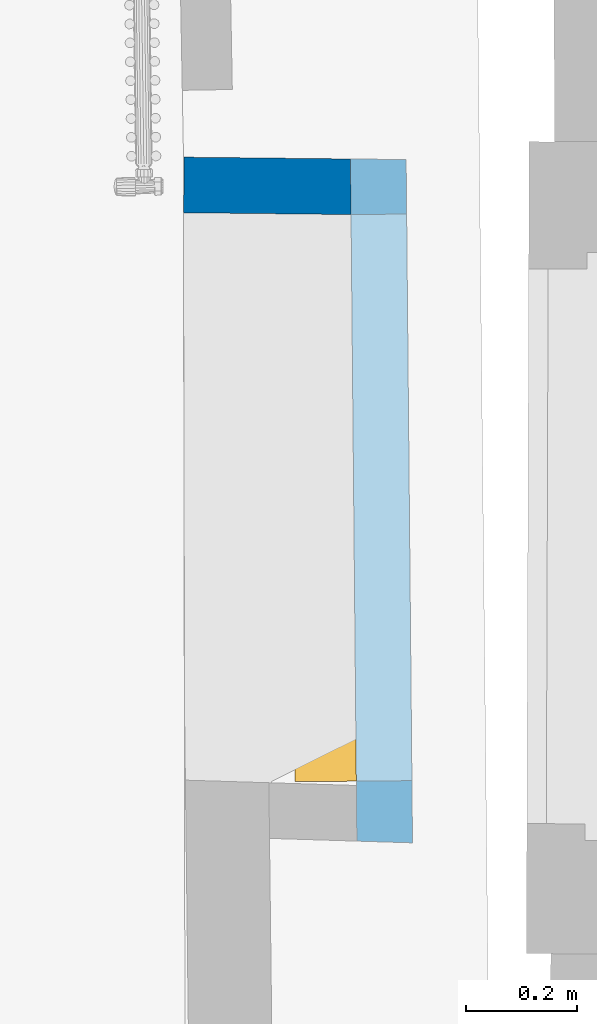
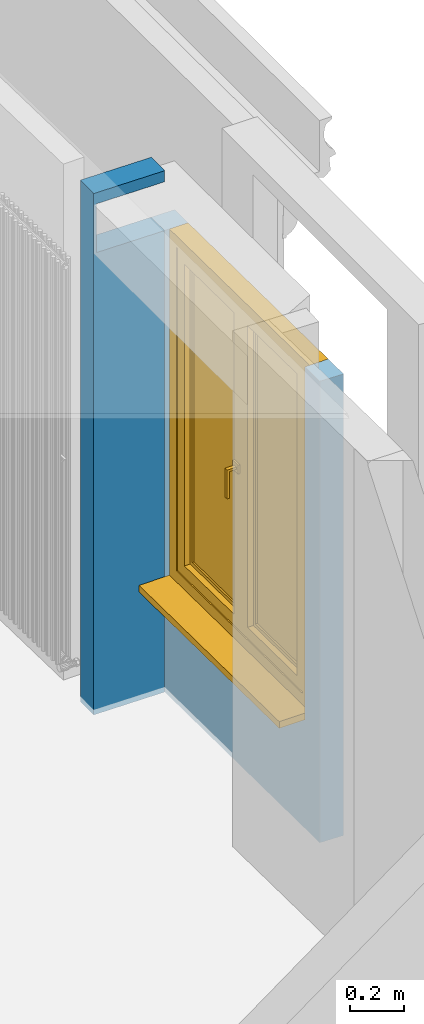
# One storey, part 65 of 72: 1 wall, 1 window, 1 opening, plus 1 element that does not belong to this part.
"""IFC2X3 building model written with IfcOpenShell, lengths in centimetres."""

from ifc_helpers import new_model, entity, si_unit, converted_unit, direction, frame, origin, origin_with_axes, place, context, subcontext, project, spatial, polyline, outline, extrude, faceted_brep, shape, material, material_list, layer, layer_set, layer_usage, type_object, element, fill, save


model = new_model("IFC2X3")

# Units and contexts
model_context = context("Model", 3, precision=0.0001, world=origin(), true_north=direction((0.225632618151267, 0.974212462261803, 0.0)))
body_context = subcontext(model_context, "Body", "Model", "MODEL_VIEW")
footprint_context = subcontext(model_context, "FootPrint", "Model", "MODEL_VIEW")
profile_context = subcontext(model_context, "Profile", "Model", "MODEL_VIEW")
ifc_project = project(units=[si_unit("LENGTHUNIT", "METRE", prefix="CENTI"), si_unit("AREAUNIT", "SQUARE_METRE", prefix="CENTI"), si_unit("VOLUMEUNIT", "CUBIC_METRE", prefix="CENTI"), converted_unit("PLANEANGLEUNIT", "DEGREE", entity("IfcRatioMeasure", 0.0174532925), si_unit("PLANEANGLEUNIT", "RADIAN"), dimensions=[0, 0, 0, 0, 0, 0, 0])], contexts=[model_context])

# Site, building, storey
site_placement = place(None, origin_with_axes())
site = spatial("IfcSite", under=ifc_project, at=site_placement, Name="Default Site", CompositionType="ELEMENT")
building_placement = place(site_placement, origin_with_axes())
building = spatial("IfcBuilding", under=site, at=building_placement, Name="Default Building", CompositionType="ELEMENT")
storey_placement = place(building_placement, frame((0.0, 0.0, 853.910374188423), z_axis=(0.0, 0.0, 1.0), x_axis=(1.0, 0.0, 0.0)))
storey = spatial("IfcBuildingStorey", under=building, at=storey_placement, Name="Niveau 2", CompositionType="ELEMENT", Elevation=853.910374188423)

# Wall
ifc_material_1 = material(Name="<aucun>")
ifc_layer = layer(ifc_material_1, 10.0)
ifc_layer_set = layer_set([ifc_layer], Name="default")
ifc_layer_usage_1 = layer_usage(ifc_layer_set, "AXIS2", "POSITIVE", -5.0)
wall_type_1 = type_object("IfcWallType", Name="default 100", PredefinedType="NOTDEFINED", material=ifc_layer_set)
wall_1_placement = place(storey_placement, frame((1104.12270452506, 517.866633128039, 1.06581410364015e-12), z_axis=(0.0, 0.0, 1.0), x_axis=(-0.999940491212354, 0.0109093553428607, 0.0)))
element("IfcWall", 1, at=wall_1_placement, inside=storey, type_object=wall_type_1, material=ifc_layer_usage_1, Name="Enveloppe 180119", context=body_context, shape_type="Brep", body=[
    faceted_brep([(30.1208991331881, 5.00001558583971, 199.999976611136), (30.1208991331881, 5.00001558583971, -2.33888636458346e-05), (-2.61978799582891e-05, 5.0000155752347, -2.33888636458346e-05), (-2.61978799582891e-05, 5.0000155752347, 199.999976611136), (28.9465704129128, 4.99998365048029, 207.999968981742), (28.9465704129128, 4.99998365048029, 199.999976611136), (-2.61978799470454e-05, 4.99998364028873, 199.999976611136), (-2.61978799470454e-05, 4.99998364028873, 207.999968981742), (30.1208970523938, 5.00020630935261, 207.999968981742), (28.9465704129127, 5.00020630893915, 207.999968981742), (28.9465704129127, 5.00020630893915, 229.999995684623), (30.1208970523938, 5.00020630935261, 229.999995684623), (28.9465704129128, 4.99998365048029, 234.007525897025), (30.1208991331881, 4.99998365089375, 234.007525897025), (30.1208970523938, 4.99998365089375, 229.999995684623), (28.9465704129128, 4.99998365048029, 229.999995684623), (30.1208970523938, 4.99998365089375, 207.999968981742), (30.1208991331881, 4.99998365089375, 199.999976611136), (-2.61978799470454e-05, 4.99998364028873, 229.999995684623), (-2.61978799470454e-05, 4.99998364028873, 234.007525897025), (30.1208991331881, 5.00001558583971, 234.007525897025), (28.9465704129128, 5.00001558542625, 234.007525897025), (-2.61978799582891e-05, 5.0000155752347, 234.007525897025), (-2.61978799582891e-05, 5.0000155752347, 235.000014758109), (30.1208991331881, 5.00001558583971, 235.000014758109), (26.7064399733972, -5.00000632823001, -2.33888636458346e-05), (30.1208924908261, -5.00000632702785, -2.33888636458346e-05), (30.1208924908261, -5.00000632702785, 199.999976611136), (28.9465632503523, -5.00000632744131, 199.999976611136), (26.7064399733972, -5.00000632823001, 199.999976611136), (0.202348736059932, -4.99999482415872, -2.33888636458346e-05), (3.8115533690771, -4.99999482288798, -2.33888636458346e-05), (26.7064399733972, -4.99999481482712, -2.33888636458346e-05), (26.7064399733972, -4.99999481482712, 199.999976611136), (0.202348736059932, -4.99999482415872, 199.999976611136), (28.9465632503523, -4.99999481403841, 199.999976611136), (28.9465632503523, -4.99999481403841, 207.999968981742), (0.202348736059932, -4.99999482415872, 207.999968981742), (28.9465632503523, -4.99998208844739, 199.999976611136), (30.1208924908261, -4.99998208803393, 199.999976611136), (30.1208924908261, -4.99998208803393, 234.007525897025), (28.9465632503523, -4.99998208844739, 234.007525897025), (28.9465632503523, -4.99998208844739, 229.999995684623), (28.9465632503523, -4.99998208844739, 207.999968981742), (-3.28402421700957e-05, -5.00000922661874, 229.999995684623), (0.202348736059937, -5.00000922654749, 229.999995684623), (28.9465632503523, -5.00000921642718, 229.999995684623), (28.9465632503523, -5.00000921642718, 234.007525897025), (-3.28402421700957e-05, -5.00000922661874, 234.007525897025), (30.1208924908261, -5.00000921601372, 234.007525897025), (30.1208924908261, -5.00000921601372, 235.000014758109), (-3.28402421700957e-05, -5.00000922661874, 235.000014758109), (30.1208924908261, -4.99999783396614, -2.33888636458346e-05), (26.6574070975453, -2.78731295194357, -2.33888636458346e-05), (26.6127065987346, -0.770659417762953, -2.33888636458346e-05), (0.0809225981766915, 0.998364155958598, -2.33888636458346e-05), (-2.61978799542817e-05, 5.00000419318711, -2.33888636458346e-05), (0.0809340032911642, 0.998364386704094, -2.33888636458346e-05), (0.0809340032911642, 0.998364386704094, 199.999976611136), (-2.61978799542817e-05, 5.00000419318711, 199.999976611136), (30.1208924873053, 5.00001558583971, -2.33888636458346e-05), (30.1208924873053, 5.00001558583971, 199.999976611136), (30.1208924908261, -4.99999783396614, 199.999976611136), (0.202279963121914, -4.99999621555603, -2.33888636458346e-05), (0.202279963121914, -4.99999621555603, 199.999976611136), (0.0809225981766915, 0.998364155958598, 199.999976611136), (-2.61978799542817e-05, 5.00000419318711, 207.999968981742), (0.202279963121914, -4.99999621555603, 207.999968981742), (0.0809225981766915, 0.998364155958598, 207.999968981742), (0.0809340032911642, 0.998364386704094, 207.999968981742), (30.1208924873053, 5.00001558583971, 207.999968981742), (30.1208924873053, 5.00001558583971, 229.999995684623), (30.1208924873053, 5.00001558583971, 234.007525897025), (30.1208924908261, -4.99999783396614, 234.007525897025), (28.9465704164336, -4.99998208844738, 207.999968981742), (28.9465704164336, -4.99998208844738, 229.999995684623), (-2.61978799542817e-05, 5.00000419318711, 229.999995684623), (-2.61943591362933e-05, -5.00000922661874, 229.999995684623), (-2.61943591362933e-05, -5.00000922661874, 234.007525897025), (-2.61978799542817e-05, 5.00000419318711, 234.007525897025), (-2.61978799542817e-05, 5.00000419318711, 235.000014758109), (30.1208924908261, -4.99999783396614, 235.000014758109), (-2.61943591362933e-05, -5.00000922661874, 235.000014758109), (30.1208924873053, 5.00001558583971, 235.000014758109)], [[[0, 1, 2, 3]], [[4, 5, 6, 7]], [[8, 9, 10, 11]], [[12, 13, 14, 15]], [[5, 4, 16, 17]], [[15, 18, 19, 12]], [[20, 21, 22, 23, 24]], [[25, 26, 27, 28, 29]], [[30, 31, 32, 33, 34]], [[34, 33, 35, 36, 37]], [[38, 39, 40, 41, 42, 43]], [[44, 45, 46, 47, 48]], [[48, 47, 49, 50, 51]], [[1, 52, 25, 53, 54, 55, 56]], [[56, 57, 58, 59]], [[52, 60, 61, 62]], [[30, 55, 54, 25]], [[55, 63, 64, 65]], [[43, 4, 66, 37]], [[65, 64, 67, 68]], [[59, 58, 69, 66]], [[62, 61, 70, 71, 72, 73]], [[4, 74, 75, 15]], [[44, 76, 15, 42]], [[76, 77, 78, 79]], [[24, 80, 51, 81]], [[79, 78, 82, 80]], [[73, 72, 83, 81]]]),
])

# Wall, opening, window
ifc_layer_usage_2 = layer_usage(ifc_layer_set, "AXIS2", "POSITIVE", -5.0)
wall_type_2 = type_object("IfcWallType", Name="default 100", PredefinedType="NOTDEFINED", material=ifc_layer_set)
wall_2_placement = place(storey_placement, frame((1110.11785791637, 400.257758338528, 1.06581410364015e-12), z_axis=(0.0, 0.0, 1.0), x_axis=(-0.00931928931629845, 0.999956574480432, 0.0)))
wall_2 = element("IfcWallStandardCase", 2, at=wall_2_placement, inside=storey, type_object=wall_type_2, material=ifc_layer_usage_2, Name="Enveloppe 180013", context=body_context, shape_type="SweptSolid", body=[
    extrude(outline(polyline([(122.662707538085, 5.00000000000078), (-0.0230565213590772, 5.00000000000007), (-0.428298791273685, -4.99999999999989), (122.460389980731, -4.99999999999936), (122.662707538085, 5.00000000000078)])), frame((0.0, 0.0, -1.77635683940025e-13), z_axis=(0.0, 0.0, 1.0), x_axis=(1.0, 0.0, 0.0)), (0.0, 0.0, 1.0), 208.000000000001),
])
opening_placement = place(wall_2_placement, frame((10.7602269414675, 0.0, 51.9999999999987), z_axis=(0.0, 0.0, 1.0), x_axis=(1.0, 5.759281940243e-15, 0.0)))
cartesian_point_1 = entity("IfcCartesianPoint", [8.88178419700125e-14, 0.0, 156.0])
cartesian_point_2 = entity("IfcCartesianPoint", [101.900434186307, 5.00000000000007])
opening = element("IfcOpeningElement", 3, at=opening_placement, cuts=wall_2, Name="4294966525_11", ObjectType="Opening", shapes=[
    shape(body_context, "Body", "SweptSolid", [extrude(outline(polyline([(8.88178419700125e-14, 156.0), (0.0, -2.99999999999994), (101.900434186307, -2.99999999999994), (101.900434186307, 156.0), (8.88178419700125e-14, 156.0)])), frame((0.0, 15.0, 0.0), z_axis=(0.0, -1.0, 0.0), x_axis=(1.0, 0.0, 0.0)), (0.0, 0.0, 1.0), 30.0)]),
    shape(profile_context, "Profile", "GeometricCurveSet", [entity("IfcGeometricCurveSet", [entity("IfcPolyline", [cartesian_point_1, entity("IfcCartesianPoint", [0.0, 0.0, 0.0]), entity("IfcCartesianPoint", [101.900434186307, 0.0, 0.0]), entity("IfcCartesianPoint", [101.900434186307, 0.0, 156.0]), cartesian_point_1])])]),
    shape(footprint_context, "FootPrint", "GeometricCurveSet", [entity("IfcGeometricCurveSet", [entity("IfcPolyline", [cartesian_point_2, entity("IfcCartesianPoint", [0.0, 5.00000000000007]), entity("IfcCartesianPoint", [0.0, -5.00000000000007]), entity("IfcCartesianPoint", [101.900434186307, -5.00000000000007]), cartesian_point_2])])]),
])
ifc_material_2 = material(Name="Transparent")
ifc_material_3 = material(Name="Jaune 255-255-0")
ifc_material_4 = material(Name="Brèche oniciata")
ifc_material_5 = material(Name="Aluminium satiné")
ifc_material_list = material_list([ifc_material_2, ifc_material_3, ifc_material_4, ifc_material_5])
window_style = type_object("IfcWindowStyle", Name="FN[R] 2VB[1V] MM", ConstructionType="NOTDEFINED", OperationType="DOUBLE_PANEL_VERTICAL", ParameterTakesPrecedence=True, Sizeable=False, material=ifc_material_list)
window_placement = place(opening_placement, frame((1.70530256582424e-13, -5.00000000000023, 0.0), z_axis=(0.0, 0.0, 1.0), x_axis=(1.0, 0.0, 0.0)))
window = element("IfcWindow", 4, at=window_placement, inside=storey, type_object=window_style, material=ifc_material_list, Name="Fenêtre 180595", OverallHeight=156.0, OverallWidth=101.900434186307, context=body_context, shape_type="Brep", body=[
    faceted_brep([(101.900429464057, 9.99997389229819, 2.23875050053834e-05), (101.900422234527, 21.0000358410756, 2.23875050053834e-05), (-3.02626927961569e-06, 21.0000064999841, 2.23875050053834e-05), (5.09201711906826e-06, 10.0000399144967, 2.23875050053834e-05), (-1.3778280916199e-05, 4.45255446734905e-05, 2.23875050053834e-05), (101.900410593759, -2.14966538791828e-05, 2.23875050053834e-05), (101.900410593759, -2.14966538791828e-05, -3.00004627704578), (-1.3778280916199e-05, 4.45255446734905e-05, -3.00004627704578), (5.09201711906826e-06, 10.0000399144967, -3.00004627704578), (-3.02626927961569e-06, 21.0000064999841, -3.00004627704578), (101.900422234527, 21.0000358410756, -3.00004627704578), (101.900429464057, 9.99997389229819, -3.00004627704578), (-1.37782808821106e-05, -2.15492250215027e-05, 2.23875050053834e-05), (-1.37782808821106e-05, -2.15492250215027e-05, -3.00004627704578), (-1.37834399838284e-05, 10.0000399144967, 2.23875050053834e-05), (-1.37834399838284e-05, 10.0000399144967, -3.00004627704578), (5.08634215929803e-06, 21.0000064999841, 2.23875050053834e-05), (5.08634215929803e-06, 21.0000064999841, -3.00004627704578), (101.900422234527, 21.0000065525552, 2.23875050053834e-05), (101.900422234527, 21.0000065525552, -3.00004627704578), (101.900422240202, 9.99997389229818, 2.23875050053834e-05), (101.900422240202, 9.99997389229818, -3.00004627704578), (101.900429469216, -2.14966538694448e-05, 2.23875050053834e-05), (101.900429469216, -2.14966538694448e-05, -3.00004627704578)], [[[0, 1, 2, 3, 4, 5]], [[6, 7, 8, 9, 10, 11]], [[5, 12, 13, 6]], [[4, 14, 15, 7]], [[3, 16, 17, 8]], [[2, 18, 19, 9]], [[1, 20, 21, 10]], [[0, 22, 23, 11]]]),
    faceted_brep([(5.00000103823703, 7.99999991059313, 150.999999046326), (5.00000103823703, 8.94070595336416e-08, 150.999999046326), (5.00000103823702, 8.94070595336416e-08, 5.00000007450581), (5.00000103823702, 7.99999991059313, 5.00000007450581), (-1.538558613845e-07, 8.94070602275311e-08, 155.999994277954), (-1.538558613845e-07, 8.94070602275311e-08, -6.85324445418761e-48), (5.00000103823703, 8.94070595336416e-08, 5.00000007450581), (-1.538558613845e-07, 8.94070595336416e-08, 155.999994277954), (-1.538558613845e-07, 7.99999991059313, 155.999994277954), (-1.5385587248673e-07, 7.99999991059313, 7.9012512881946e-31), (-1.5385587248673e-07, 8.94070595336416e-08, 7.9012512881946e-31), (5.00000103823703, 7.99999991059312, 150.999999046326), (5.00000103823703, 7.99999991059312, 5.00000007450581), (-1.538558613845e-07, 7.99999991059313, 0.0), (5.00000103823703, 7.99999991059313, 5.00000007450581), (96.9004331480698, 8.94070595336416e-08, 5.0000000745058), (96.9004331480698, 7.99999991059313, 5.0000000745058), (-1.538558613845e-07, 8.94070602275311e-08, 1.12459805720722e-32), (101.900434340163, 8.94070477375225e-08, -1.91181626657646e-31), (96.9004331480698, 8.94070482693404e-08, 5.00000007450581), (-1.538558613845e-07, 8.94070595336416e-08, 0.0), (101.900434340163, 7.99999991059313, 0.0), (101.900434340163, 8.94070595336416e-08, 0.0), (96.9004331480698, 7.99999991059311, 5.00000007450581), (101.900434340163, 7.99999991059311, -2.2445446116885e-31), (96.9004331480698, 7.99999991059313, 5.00000007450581), (96.9004331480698, 8.94070595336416e-08, 5.00000007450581), (96.9004331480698, 8.94070595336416e-08, 150.999999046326), (96.9004331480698, 7.99999991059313, 150.999999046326), (101.900434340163, 8.9407058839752e-08, 0.0), (101.900434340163, 8.9407058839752e-08, 155.999994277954), (101.900434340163, 7.99999991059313, 155.999994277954), (101.900434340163, 8.94070595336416e-08, 155.999994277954), (101.900434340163, 8.94070588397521e-08, 155.999994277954), (-1.538558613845e-07, 8.94070713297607e-08, 155.999994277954), (5.00000103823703, 8.94070707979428e-08, 150.999999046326), (5.00000103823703, 7.99999991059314, 150.999999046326), (-1.538558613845e-07, 7.99999991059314, 155.999994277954)], [[[0, 1, 2, 3]], [[1, 4, 5, 6]], [[7, 8, 9, 10]], [[8, 11, 12, 13]], [[14, 6, 15, 16]], [[6, 17, 18, 19]], [[20, 13, 21, 22]], [[13, 14, 23, 24]], [[25, 26, 27, 28]], [[26, 29, 30, 27]], [[22, 21, 31, 32]], [[21, 25, 28, 31]], [[28, 27, 1, 0]], [[27, 33, 34, 35]], [[32, 31, 8, 7]], [[31, 28, 36, 37]]]),
    faceted_brep([(9.99999925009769, 7.50000001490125, 146.000003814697), (9.99999925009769, 1.49999996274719, 146.000003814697), (9.99999925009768, 1.49999996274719, 10.0000001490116), (9.99999925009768, 7.50000001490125, 10.0000001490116), (8.99999973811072, 0.500000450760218, 147.000002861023), (8.99999973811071, 0.500000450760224, 9.00000035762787), (9.99999925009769, 1.49999996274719, 10.0000001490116), (9.00000020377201, 0.499999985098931, 147.000002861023), (5.00000103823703, 0.499999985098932, 150.999999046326), (5.00000103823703, 0.499999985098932, 5.00000007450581), (9.00000020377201, 0.499999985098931, 9.00000035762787), (5.00000103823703, 0.499999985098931, 150.999999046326), (5.00000103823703, 7.50000001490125, 150.999999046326), (5.00000103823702, 7.50000001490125, 5.00000007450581), (5.00000103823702, 0.499999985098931, 5.00000007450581), (9.99999925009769, 7.50000001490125, 10.0000001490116), (5.00000103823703, 7.50000001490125, 5.00000007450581), (45.9502170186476, 1.49999996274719, 10.0000001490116), (45.9502170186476, 7.50000001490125, 10.0000001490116), (9.00000020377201, 0.500000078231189, 9.00000026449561), (46.9502171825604, 0.50000007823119, 9.00000026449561), (50.9502170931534, 0.499999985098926, 5.00000007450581), (46.9502171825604, 0.499999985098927, 9.00000035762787), (5.00000103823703, 0.499999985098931, 5.00000007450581), (50.9502170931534, 7.50000001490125, 5.00000007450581), (50.9502170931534, 0.499999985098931, 5.00000007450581), (45.9502170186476, 1.49999996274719, 146.000003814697), (45.9502170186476, 7.50000001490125, 146.000003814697), (46.9502170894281, 0.499999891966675, 9.00000035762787), (46.9502170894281, 0.499999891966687, 147.000002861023), (45.9502170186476, 1.4999999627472, 146.000003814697), (46.9502171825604, 0.499999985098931, 9.00000035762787), (50.9502170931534, 0.499999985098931, 5.00000007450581), (50.9502170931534, 0.499999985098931, 150.999999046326), (46.9502171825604, 0.499999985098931, 147.000002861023), (50.9502170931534, 7.50000001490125, 150.999999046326), (50.9502170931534, 0.499999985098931, 150.999999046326), (46.9502171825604, 0.500000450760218, 147.000003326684), (9.00000020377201, 0.500000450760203, 147.000003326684), (9.99999925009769, 1.49999996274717, 146.000003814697), (5.00000103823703, 0.499999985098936, 150.999999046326), (9.00000020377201, 0.499999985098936, 147.000002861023), (9.99999925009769, 7.50000001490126, 146.000003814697), (5.00000103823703, 7.50000001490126, 150.999999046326)], [[[0, 1, 2, 3]], [[1, 4, 5, 6]], [[7, 8, 9, 10]], [[11, 12, 13, 14]], [[12, 0, 15, 16]], [[15, 6, 17, 18]], [[6, 19, 20, 17]], [[10, 9, 21, 22]], [[23, 16, 24, 25]], [[16, 15, 18, 24]], [[18, 17, 26, 27]], [[17, 28, 29, 30]], [[31, 32, 33, 34]], [[25, 24, 35, 36]], [[24, 18, 27, 35]], [[27, 26, 1, 0]], [[26, 37, 38, 39]], [[34, 33, 40, 41]], [[36, 35, 12, 11]], [[35, 27, 42, 43]]]),
    faceted_brep([(11.5000007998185, 4.99999997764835, 144.500005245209), (12.0000005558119, 4.50000022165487, 144.000005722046), (12.0000005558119, 4.50000022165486, 11.9999997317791), (11.5000007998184, 4.99999997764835, 11.5000002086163), (12.0000003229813, 4.49999998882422, 144.000005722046), (12.0000003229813, 3.50000001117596, 144.000005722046), (12.0000003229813, 3.50000001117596, 11.9999997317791), (12.0000003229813, 4.49999998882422, 11.9999997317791), (11.5000005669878, 3.00000025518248, 144.500005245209), (11.5000005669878, 3.00000025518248, 11.5000002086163), (12.0000003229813, 3.50000001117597, 11.9999997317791), (11.5000007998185, 3.00000002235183, 144.500005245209), (9.99999925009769, 3.00000002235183, 146.000003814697), (9.99999925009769, 3.00000002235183, 10.0000001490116), (11.5000007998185, 3.00000002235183, 11.5000002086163), (9.99999925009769, 4.99999997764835, 146.000003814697), (9.99999925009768, 4.99999997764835, 10.0000001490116), (9.99999925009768, 3.00000002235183, 10.0000001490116), (11.5000007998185, 4.99999997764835, 11.5000002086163), (9.99999925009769, 4.99999997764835, 10.0000001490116), (12.0000003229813, 4.50000022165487, 11.9999999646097), (43.9502170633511, 4.50000022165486, 11.9999999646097), (44.450217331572, 4.99999997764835, 11.5000002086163), (43.9502170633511, 3.50000001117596, 11.9999997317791), (43.9502170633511, 4.49999998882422, 11.9999997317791), (11.5000007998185, 3.00000025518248, 11.4999999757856), (44.450217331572, 3.00000025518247, 11.4999999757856), (45.9502170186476, 3.00000002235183, 10.0000001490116), (44.450217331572, 3.00000002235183, 11.5000002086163), (45.9502170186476, 4.99999997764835, 10.0000001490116), (43.9502172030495, 4.49999984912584, 11.9999997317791), (43.9502172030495, 4.49999984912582, 144.000005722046), (44.450217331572, 4.99999997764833, 144.500005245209), (43.9502170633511, 3.50000001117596, 144.000005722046), (43.9502170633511, 4.49999998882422, 144.000005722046), (44.4502171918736, 2.99999988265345, 11.5000002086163), (44.4502171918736, 2.99999988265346, 144.500005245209), (43.9502170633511, 3.50000001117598, 144.000005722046), (45.9502170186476, 3.00000002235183, 146.000003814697), (44.450217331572, 3.00000002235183, 144.500005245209), (45.9502170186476, 4.99999997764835, 146.000003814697), (44.450217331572, 4.99999997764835, 144.500005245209), (43.9502170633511, 4.50000022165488, 144.000005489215), (12.0000003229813, 4.50000022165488, 144.000005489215), (44.450217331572, 3.00000025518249, 144.500005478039), (11.5000007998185, 3.00000025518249, 144.500005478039), (9.99999925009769, 3.00000002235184, 146.000003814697), (11.5000007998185, 3.00000002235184, 144.500005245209), (11.5000007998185, 4.99999997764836, 144.500005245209), (9.99999925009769, 4.99999997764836, 146.000003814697)], [[[0, 1, 2, 3]], [[4, 5, 6, 7]], [[5, 8, 9, 10]], [[11, 12, 13, 14]], [[12, 15, 16, 17]], [[15, 0, 18, 19]], [[18, 20, 21, 22]], [[7, 6, 23, 24]], [[6, 25, 26, 23]], [[14, 13, 27, 28]], [[13, 19, 29, 27]], [[19, 18, 22, 29]], [[22, 30, 31, 32]], [[24, 23, 33, 34]], [[23, 35, 36, 37]], [[28, 27, 38, 39]], [[27, 29, 40, 38]], [[29, 22, 41, 40]], [[41, 42, 43, 0]], [[34, 33, 5, 4]], [[33, 44, 45, 5]], [[39, 38, 46, 47]], [[38, 40, 15, 12]], [[40, 41, 48, 49]]]),
    faceted_brep([(43.9502170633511, 4.49999998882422, 144.000005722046), (43.9502170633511, 4.49999998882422, 11.9999997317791), (12.0000003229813, 4.49999998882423, 11.9999997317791), (12.0000003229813, 4.49999998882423, 144.000005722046), (12.0000003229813, 3.50000001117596, 144.000005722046), (12.0000003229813, 3.50000001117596, 11.9999997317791), (43.9502170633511, 3.50000001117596, 11.9999997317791), (43.9502170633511, 3.50000001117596, 144.000005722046), (12.0000003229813, 4.49999998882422, 144.000005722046), (12.0000003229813, 4.49999998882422, 11.9999997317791)], [[[0, 1, 2, 3]], [[4, 5, 6, 7]], [[8, 9, 5, 4]], [[9, 1, 6, 5]], [[1, 0, 7, 6]], [[0, 8, 4, 7]]]),
    faceted_brep([(55.9502171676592, 7.50000001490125, 146.000003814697), (55.9502171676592, 1.49999996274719, 146.000003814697), (55.9502171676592, 1.49999996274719, 10.0000001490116), (55.9502171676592, 7.50000001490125, 10.0000001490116), (54.9502170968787, 0.499999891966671, 147.000002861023), (54.9502170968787, 0.499999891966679, 9.00000035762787), (54.9502170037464, 0.499999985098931, 147.000002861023), (50.9502170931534, 0.499999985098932, 150.999999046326), (50.9502170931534, 0.499999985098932, 5.00000007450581), (54.9502170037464, 0.499999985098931, 9.00000035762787), (50.9502170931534, 0.499999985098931, 150.999999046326), (50.9502170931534, 7.50000001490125, 150.999999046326), (50.9502170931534, 7.50000001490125, 5.00000007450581), (50.9502170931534, 0.499999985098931, 5.00000007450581), (91.9004349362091, 1.49999996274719, 10.0000001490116), (91.9004349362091, 7.50000001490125, 10.0000001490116), (54.9502170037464, 0.50000007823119, 9.00000026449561), (92.9004339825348, 0.50000007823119, 9.00000026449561), (96.9004331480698, 0.499999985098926, 5.00000007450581), (92.9004339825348, 0.499999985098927, 9.00000035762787), (96.9004331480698, 7.50000001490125, 5.00000007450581), (96.9004331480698, 0.499999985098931, 5.00000007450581), (91.9004349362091, 1.49999996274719, 146.000003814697), (91.9004349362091, 7.50000001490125, 146.000003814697), (92.9004344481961, 0.500000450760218, 9.00000035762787), (92.9004344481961, 0.500000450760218, 147.000002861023), (92.9004339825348, 0.499999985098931, 9.00000035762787), (96.9004331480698, 0.499999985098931, 5.00000007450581), (96.9004331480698, 0.499999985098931, 150.999999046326), (92.9004339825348, 0.499999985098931, 147.000002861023), (96.9004331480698, 7.50000001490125, 150.999999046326), (96.9004331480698, 0.499999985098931, 150.999999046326), (91.9004349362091, 7.50000001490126, 10.0000001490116), (91.9004349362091, 7.50000001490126, 146.000003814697), (92.9004339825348, 0.500000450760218, 147.000003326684), (54.9502170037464, 0.500000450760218, 147.000003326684), (50.9502170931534, 0.499999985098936, 150.999999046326), (54.9502170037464, 0.499999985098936, 147.000002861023), (55.9502171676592, 7.50000001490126, 146.000003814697), (50.9502170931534, 7.50000001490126, 150.999999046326)], [[[0, 1, 2, 3]], [[1, 4, 5, 2]], [[6, 7, 8, 9]], [[10, 11, 12, 13]], [[11, 0, 3, 12]], [[3, 2, 14, 15]], [[2, 16, 17, 14]], [[9, 8, 18, 19]], [[13, 12, 20, 21]], [[12, 3, 15, 20]], [[15, 14, 22, 23]], [[14, 24, 25, 22]], [[26, 27, 28, 29]], [[21, 20, 30, 31]], [[20, 32, 33, 30]], [[23, 22, 1, 0]], [[22, 34, 35, 1]], [[29, 28, 36, 37]], [[31, 30, 11, 10]], [[30, 23, 38, 39]]]),
    faceted_brep([(51.4502170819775, 7.50000001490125, 80.0000011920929), (51.4502170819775, 7.50000001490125, 75.9999990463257), (55.4502172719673, 7.50000001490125, 75.9999990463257), (55.4502172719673, 7.50000001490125, 80.0000011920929), (55.4502172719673, 8.30000014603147, 80.0000011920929), (55.4502172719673, 8.30000014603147, 75.9999990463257), (51.4502170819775, 8.30000014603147, 75.9999990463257), (51.4502170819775, 8.30000014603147, 80.0000011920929)], [[[0, 1, 2, 3]], [[4, 5, 6, 7]], [[3, 2, 5, 4]], [[2, 1, 6, 5]], [[1, 0, 7, 6]], [[0, 3, 4, 7]]]),
    faceted_brep([(52.700217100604, 8.30000014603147, 78.5000026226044), (52.700217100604, 8.30000014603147, 77.4999976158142), (54.2002169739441, 8.30000014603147, 77.4999976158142), (54.2002169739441, 8.30000014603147, 78.5000026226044), (54.2002169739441, 12.2999996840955, 78.5000026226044), (54.2002169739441, 11.2999972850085, 77.5000002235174), (52.700217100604, 11.2999972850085, 77.5000002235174), (52.700217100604, 12.2999996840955, 78.5000026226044), (54.2002169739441, 11.2999998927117, 77.4999976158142), (52.700217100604, 11.2999998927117, 77.4999976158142)], [[[0, 1, 2, 3]], [[4, 5, 6, 7]], [[3, 2, 8, 4]], [[2, 1, 9, 8]], [[1, 0, 7, 9]], [[0, 3, 4, 7]]]),
    faceted_brep([(52.700217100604, 12.2999996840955, 78.5000026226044), (52.700217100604, 11.2999972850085, 77.5000002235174), (54.2002169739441, 11.2999972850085, 77.5000002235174), (54.2002169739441, 12.2999996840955, 78.5000026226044), (54.2002169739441, 12.2999996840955, 65.4999971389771), (54.2002169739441, 11.2999998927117, 65.4999971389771), (52.700217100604, 11.2999998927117, 65.4999971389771), (52.700217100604, 12.2999996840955, 65.4999971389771), (54.2002169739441, 11.2999998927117, 77.4999976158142), (52.700217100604, 11.2999998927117, 77.4999976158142)], [[[0, 1, 2, 3]], [[4, 5, 6, 7]], [[3, 8, 5, 4]], [[8, 9, 6, 5]], [[9, 0, 7, 6]], [[0, 3, 4, 7]]]),
    faceted_brep([(57.4502168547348, 4.99999997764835, 144.500005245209), (57.9502169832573, 4.49999984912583, 144.000005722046), (57.9502169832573, 4.49999984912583, 11.9999997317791), (57.4502168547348, 4.99999997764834, 11.5000002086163), (57.9502171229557, 4.49999998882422, 144.000005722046), (57.9502171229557, 3.50000001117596, 144.000005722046), (57.9502171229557, 3.50000001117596, 11.9999997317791), (57.9502171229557, 4.49999998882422, 11.9999997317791), (57.4502169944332, 2.99999988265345, 144.500005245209), (57.4502169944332, 2.99999988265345, 11.5000002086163), (57.9502171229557, 3.50000001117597, 11.9999997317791), (57.4502168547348, 3.00000002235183, 144.500005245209), (55.9502171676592, 3.00000002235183, 146.000003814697), (55.9502171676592, 3.00000002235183, 10.0000001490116), (57.4502168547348, 3.00000002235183, 11.5000002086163), (55.9502171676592, 4.99999997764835, 146.000003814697), (55.9502171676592, 4.99999997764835, 10.0000001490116), (57.4502168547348, 4.99999997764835, 11.5000002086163), (57.9502171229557, 4.50000022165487, 11.9999999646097), (89.9004338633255, 4.50000022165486, 11.9999999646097), (90.4004333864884, 4.99999997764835, 11.5000002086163), (89.9004338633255, 3.50000001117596, 11.9999997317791), (89.9004338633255, 4.49999998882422, 11.9999997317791), (57.4502168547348, 3.00000025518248, 11.4999999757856), (90.4004333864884, 3.00000025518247, 11.4999999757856), (91.9004349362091, 3.00000002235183, 10.0000001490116), (90.4004333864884, 3.00000002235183, 11.5000002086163), (91.9004349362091, 4.99999997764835, 10.0000001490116), (89.9004336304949, 4.50000022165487, 11.9999997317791), (89.9004336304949, 4.50000022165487, 144.000005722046), (90.4004333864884, 4.99999997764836, 144.500005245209), (89.9004338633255, 3.50000001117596, 144.000005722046), (89.9004338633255, 4.49999998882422, 144.000005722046), (90.400433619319, 3.00000025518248, 11.5000002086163), (90.400433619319, 3.00000025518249, 144.500005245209), (89.9004338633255, 3.50000001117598, 144.000005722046), (91.9004349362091, 3.00000002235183, 146.000003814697), (90.4004333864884, 3.00000002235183, 144.500005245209), (91.9004349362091, 4.99999997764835, 146.000003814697), (90.4004333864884, 4.99999997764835, 144.500005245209), (89.9004338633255, 4.50000022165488, 144.000005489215), (57.9502171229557, 4.50000022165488, 144.000005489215), (90.4004333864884, 3.00000025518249, 144.500005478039), (57.4502168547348, 3.00000025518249, 144.500005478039), (55.9502171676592, 3.00000002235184, 146.000003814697), (57.4502168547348, 3.00000002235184, 144.500005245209), (57.4502168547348, 4.99999997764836, 144.500005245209), (55.9502171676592, 4.99999997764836, 146.000003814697)], [[[0, 1, 2, 3]], [[4, 5, 6, 7]], [[5, 8, 9, 10]], [[11, 12, 13, 14]], [[12, 15, 16, 13]], [[15, 0, 17, 16]], [[17, 18, 19, 20]], [[7, 6, 21, 22]], [[6, 23, 24, 21]], [[14, 13, 25, 26]], [[13, 16, 27, 25]], [[16, 17, 20, 27]], [[20, 28, 29, 30]], [[22, 21, 31, 32]], [[21, 33, 34, 35]], [[26, 25, 36, 37]], [[25, 27, 38, 36]], [[27, 20, 39, 38]], [[39, 40, 41, 0]], [[32, 31, 5, 4]], [[31, 42, 43, 5]], [[37, 36, 44, 45]], [[36, 38, 15, 12]], [[38, 39, 46, 47]]]),
    faceted_brep([(89.9004338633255, 4.49999998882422, 144.000005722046), (89.9004338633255, 4.49999998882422, 11.9999997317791), (57.9502171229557, 4.49999998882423, 11.9999997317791), (57.9502171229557, 4.49999998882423, 144.000005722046), (57.9502171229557, 3.50000001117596, 144.000005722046), (57.9502171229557, 3.50000001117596, 11.9999997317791), (89.9004338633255, 3.50000001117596, 11.9999997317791), (89.9004338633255, 3.50000001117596, 144.000005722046), (57.9502171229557, 4.49999998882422, 144.000005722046), (57.9502171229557, 4.49999998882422, 11.9999997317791)], [[[0, 1, 2, 3]], [[4, 5, 6, 7]], [[8, 9, 5, 4]], [[9, 1, 6, 5]], [[1, 0, 7, 6]], [[0, 8, 4, 7]]]),
])
fill(opening, window)

save(model, "model.ifc")
